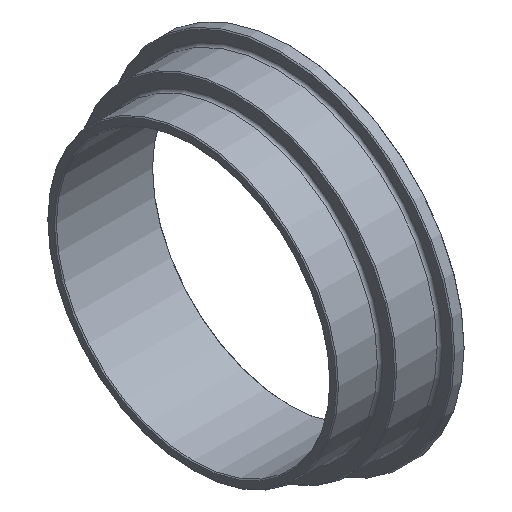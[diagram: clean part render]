
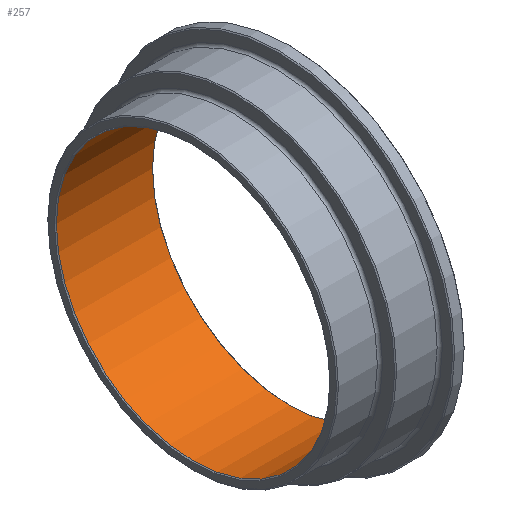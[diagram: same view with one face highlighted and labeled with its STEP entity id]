
A CAD part, isometric view. The second image highlights one B-rep face of the part: STEP entity #257.
In plain terms, the highlighted cylindrical face has radius 41.85 mm (diameter 83.7 mm), a full revolution.
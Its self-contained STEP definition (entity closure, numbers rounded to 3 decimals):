
#32=LINE('',#474,#42);
#42=VECTOR('',#390,41.85);
#51=CYLINDRICAL_SURFACE('',#311,41.85);
#61=FACE_OUTER_BOUND('',#80,.T.);
#80=EDGE_LOOP('',(#208,#209,#210,#211,#212,#213));
#104=CIRCLE('',#307,41.85);
#105=CIRCLE('',#308,41.85);
#107=CIRCLE('',#312,41.85);
#108=CIRCLE('',#313,41.85);
#128=VERTEX_POINT('',#461);
#129=VERTEX_POINT('',#463);
#131=VERTEX_POINT('',#470);
#132=VERTEX_POINT('',#471);
#157=EDGE_CURVE('',#128,#129,#104,.T.);
#158=EDGE_CURVE('',#129,#128,#105,.T.);
#160=EDGE_CURVE('',#131,#132,#107,.T.);
#161=EDGE_CURVE('',#132,#131,#108,.T.);
#162=EDGE_CURVE('',#132,#129,#32,.T.);
#208=ORIENTED_EDGE('',*,*,#160,.F.);
#209=ORIENTED_EDGE('',*,*,#161,.F.);
#210=ORIENTED_EDGE('',*,*,#162,.T.);
#211=ORIENTED_EDGE('',*,*,#157,.F.);
#212=ORIENTED_EDGE('',*,*,#158,.F.);
#213=ORIENTED_EDGE('',*,*,#162,.F.);
#257=ADVANCED_FACE('',(#61),#51,.F.);
#307=AXIS2_PLACEMENT_3D('',#464,#376,#377);
#308=AXIS2_PLACEMENT_3D('',#465,#378,#379);
#311=AXIS2_PLACEMENT_3D('',#469,#384,#385);
#312=AXIS2_PLACEMENT_3D('',#472,#386,#387);
#313=AXIS2_PLACEMENT_3D('',#473,#388,#389);
#376=DIRECTION('center_axis',(1.,0.,0.));
#377=DIRECTION('ref_axis',(0.,-1.,0.));
#378=DIRECTION('center_axis',(1.,0.,0.));
#379=DIRECTION('ref_axis',(0.,-1.,0.));
#384=DIRECTION('center_axis',(1.,0.,0.));
#385=DIRECTION('ref_axis',(0.,1.,0.));
#386=DIRECTION('center_axis',(-1.,0.,0.));
#387=DIRECTION('ref_axis',(0.,-1.,0.));
#388=DIRECTION('center_axis',(-1.,0.,0.));
#389=DIRECTION('ref_axis',(0.,-1.,0.));
#390=DIRECTION('',(-1.,0.,0.));
#461=CARTESIAN_POINT('',(-29.7,41.85,0.));
#463=CARTESIAN_POINT('',(-29.7,-41.85,0.));
#464=CARTESIAN_POINT('Origin',(-29.7,0.,0.));
#465=CARTESIAN_POINT('Origin',(-29.7,0.,0.));
#469=CARTESIAN_POINT('Origin',(-15.,0.,0.));
#470=CARTESIAN_POINT('',(-0.3,41.85,0.));
#471=CARTESIAN_POINT('',(-0.3,-41.85,0.));
#472=CARTESIAN_POINT('Origin',(-0.3,0.,0.));
#473=CARTESIAN_POINT('Origin',(-0.3,0.,0.));
#474=CARTESIAN_POINT('',(-15.,-41.85,0.));
